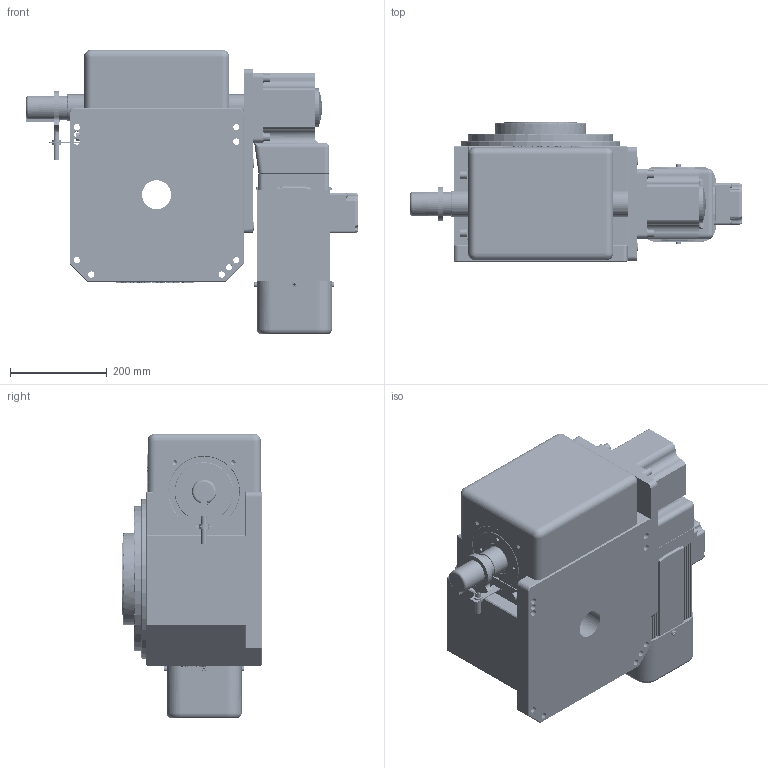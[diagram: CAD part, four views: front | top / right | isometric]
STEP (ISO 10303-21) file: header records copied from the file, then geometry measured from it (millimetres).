
FILE_DESCRIPTION (( 'STEP AP214' ), '1' );
FILE_NAME ('ER-RU180DT英锐凸轮分割器固定盘壳体法兰面销孔3D水平直联式右侧JY(电话15062628977)AA.STEP', '2023-01-03T07:19:14', ( '微软用户' ), ( '微软中国' ), 'SwSTEP 2.0', 'SolidWorks 2017', '' );
FILE_SCHEMA (( 'AUTOMOTIVE_DESIGN' ));
Length unit declared in the file: millimetre
Products named in the file (1): ER-RU180DT英锐凸轮分割器固定盘壳体法兰面销孔3D水平直联式右侧JY(电话15062628977)AA
Bounding box: 686.63 x 290 x 588.5 mm (x, y, z)
Volume: 51558147.7 mm3; surface area: 1556533.6 mm2
Topology: 3 solids, 11 shells, 3119 faces, 8316 edges, 5361 vertices
Faces by surface type: plane 1322, cylinder 1082, bspline 446, cone 221, torus 40, sphere 8
Entity records: 217358 total; most frequent: CARTESIAN_POINT 138690, ORIENTED_EDGE 16484, DIRECTION 11795, EDGE_CURVE 8242, VERTEX_POINT 5361, LINE 4661, VECTOR 4661, AXIS2_PLACEMENT_3D 3567
